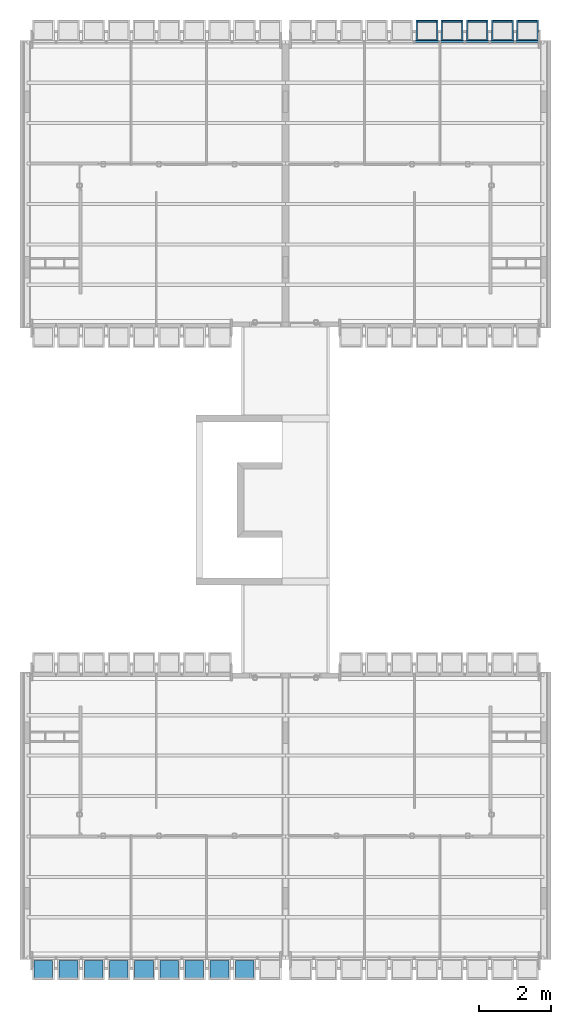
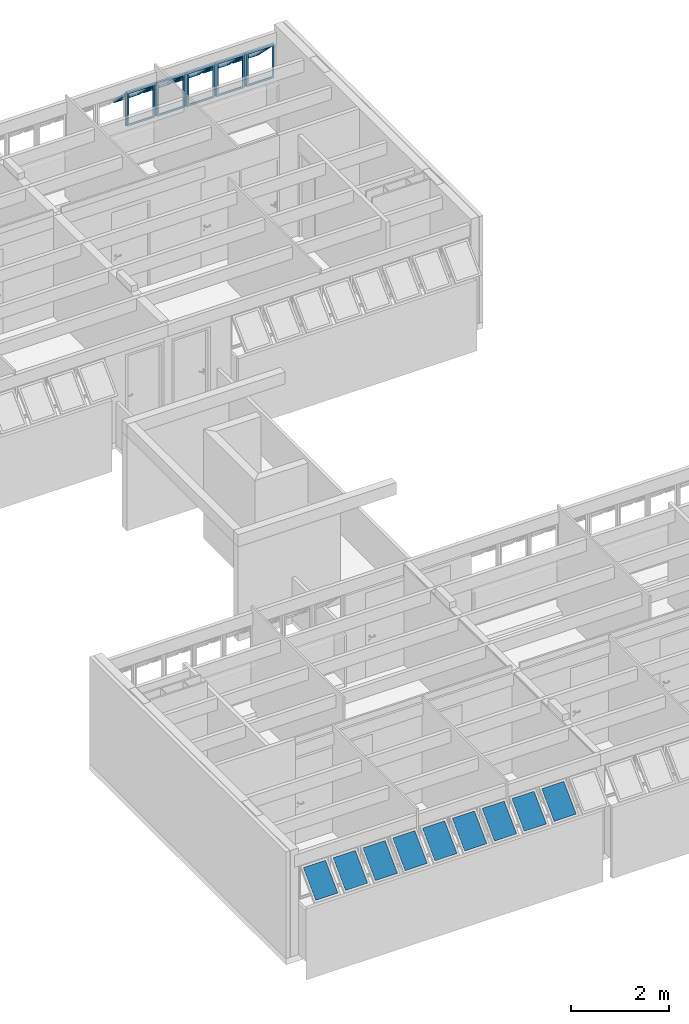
# One storey, part 35 of 37: 14 building element parts, 16 elements without a shape of their own.
"""IFC2X3 building model written with IfcOpenShell, lengths in millimetres."""

from ifc_helpers import new_model, entity, si_unit, converted_unit, derived_unit, money_unit, direction, frame, origin_with_axes, place, context, subcontext, project, spatial, faceted_brep, source, transform, mapped, material, type_object, element, aggregate, save


model = new_model("IFC2X3")

# Units and contexts
model_context = context("Model", 3, precision=0.01, world=origin_with_axes(), true_north=direction((0.0, 1.0)))
body_context = subcontext(model_context, "Body", "Model", "MODEL_VIEW")
ifc_project = project(units=[si_unit("LENGTHUNIT", "METRE", prefix="MILLI"), si_unit("AREAUNIT", "SQUARE_METRE"), si_unit("VOLUMEUNIT", "CUBIC_METRE"), converted_unit("PLANEANGLEUNIT", "DEGREE", entity("IfcPlaneAngleMeasure", 0.0174532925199), si_unit("PLANEANGLEUNIT", "RADIAN"), dimensions=[0, 0, 0, 0, 0, 0, 0]), money_unit("USD"), converted_unit("TIMEUNIT", "Year", entity("IfcTimeMeasure", 31556926.0), si_unit("TIMEUNIT", "SECOND"), dimensions=[0, 0, 1, 0, 0, 0, 0]), si_unit("MASSUNIT", "GRAM", prefix="KILO"), si_unit("THERMODYNAMICTEMPERATUREUNIT", "DEGREE_CELSIUS"), si_unit("LUMINOUSINTENSITYUNIT", "LUMEN"), si_unit("ENERGYUNIT", "JOULE", prefix="MEGA"), derived_unit("THERMALCONDUCTANCEUNIT", [(si_unit("POWERUNIT", "WATT"), 1), (si_unit("LENGTHUNIT", "METRE"), -1), (si_unit("THERMODYNAMICTEMPERATUREUNIT", "KELVIN"), -1)]), derived_unit("SPECIFICHEATCAPACITYUNIT", [(si_unit("ENERGYUNIT", "JOULE"), 1), (si_unit("MASSUNIT", "GRAM", prefix="KILO"), -1), (si_unit("THERMODYNAMICTEMPERATUREUNIT", "KELVIN"), -1)]), derived_unit("MASSDENSITYUNIT", [(si_unit("MASSUNIT", "GRAM", prefix="KILO"), 1), (si_unit("VOLUMEUNIT", "CUBIC_METRE"), -1)])], contexts=[model_context])

# Site, building, storey
site_placement = place(None, origin_with_axes())
site = spatial("IfcSite", under=ifc_project, at=site_placement, Name="Local", CompositionType="ELEMENT")
building_placement = place(site_placement, origin_with_axes())
building = spatial("IfcBuilding", under=site, at=building_placement, Name="Construção", CompositionType="ELEMENT")
storey_placement = place(building_placement, frame((0.0, 0.0, 5300.0), z_axis=(0.0, 0.0, 1.0), x_axis=(1.0, 0.0, 0.0)))
storey = spatial("IfcBuildingStorey", under=building, at=storey_placement, Name="Terceiro Pavimento", CompositionType="ELEMENT", Elevation=5300.0)

# Window, plate, building element part
window_style = type_object("IfcWindowStyle", Name="Tipo de Parede Cortina", ConstructionType="NOTDEFINED", OperationType="NOTDEFINED", ParameterTakesPrecedence=False, Sizeable=False)
window_1_placement = place(storey_placement, frame((8520.0, 25844.9790225, 1355.02054151), z_axis=(0.0, 0.0, 1.0), x_axis=(1.0, 0.0, 0.0)))
window_1 = element("IfcWindow", 1, at=window_1_placement, inside=storey, type_object=window_style, Name="APTO12-JANELA-001")
plate_type = type_object("IfcPlateType", Name="Painel Principal 690 x 845 x 20", PredefinedType="CURTAIN_PANEL")
plate_1_placement = place(window_1_placement, frame((3500.0, 0.0, 422.499945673), z_axis=(0.0, 0.0, 1.0), x_axis=(1.0, 0.0, 0.0)))
plate_1 = element("IfcPlate", 2, at=plate_1_placement, type_object=plate_type, Name="APTO12-Painel-Prin-013")
ifc_material_1 = material(Name="Alumínio")
shared_shape_1 = source(origin_with_axes(), body_context, "Body", "Brep", [
    faceted_brep([(25.0000036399, 0.0, -40.0), (674.999997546, 0.0, -40.0), (674.999997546, 0.0, -35.0), (25.0000036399, 0.0, -35.0), (70.0000036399, 45.0, -40.0), (629.999997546, 45.0, -40.0), (629.999997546, 45.0, -35.0), (70.0000036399, 45.0, -35.0)], [[[0, 1, 2, 3]], [[0, 4, 5, 1]], [[1, 5, 6, 2]], [[3, 2, 6, 7]], [[4, 0, 3, 7]], [[5, 4, 7, 6]]]),
    faceted_brep([(674.999997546, 0.0, -40.0), (674.999997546, 844.999891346, -40.0), (674.999997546, 844.999891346, -35.0), (674.999997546, 0.0, -35.0), (629.999997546, 45.0, -40.0), (629.999997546, 799.999891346, -40.0), (629.999997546, 799.999891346, -35.0), (629.999997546, 45.0, -35.0)], [[[0, 1, 2, 3]], [[0, 4, 5, 1]], [[1, 5, 6, 2]], [[3, 2, 6, 7]], [[4, 0, 3, 7]], [[5, 4, 7, 6]]]),
    faceted_brep([(25.0000036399, 844.999891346, -40.0), (70.0000036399, 799.999891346, -40.0), (70.0000036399, 799.999891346, -35.0), (25.0000036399, 844.999891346, -35.0), (674.999997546, 844.999891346, -40.0), (629.999997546, 799.999891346, -40.0), (629.999997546, 799.999891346, -35.0), (674.999997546, 844.999891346, -35.0)], [[[0, 1, 2, 3]], [[0, 4, 5, 1]], [[1, 5, 6, 2]], [[3, 2, 6, 7]], [[4, 0, 3, 7]], [[5, 4, 7, 6]]]),
    faceted_brep([(25.0000036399, 0.0, -40.0), (70.0000036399, 45.0, -40.0), (70.0000036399, 45.0, -35.0), (25.0000036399, 0.0, -35.0), (25.0000036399, 844.999891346, -40.0), (70.0000036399, 799.999891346, -40.0), (70.0000036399, 799.999891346, -35.0), (25.0000036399, 844.999891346, -35.0)], [[[0, 1, 2, 3]], [[0, 4, 5, 1]], [[1, 5, 6, 2]], [[3, 2, 6, 7]], [[4, 0, 3, 7]], [[5, 4, 7, 6]]]),
    faceted_brep([(25.0000036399, 0.0, -35.0), (674.999997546, 0.0, -35.0), (674.999997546, 0.0, 15.0), (25.0000036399, 0.0, 15.0), (45.0000036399, 20.0, -35.0), (654.999997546, 20.0, -35.0), (654.999997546, 20.0, 15.0), (45.0000036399, 20.0, 15.0)], [[[0, 1, 2, 3]], [[0, 4, 5, 1]], [[1, 5, 6, 2]], [[3, 2, 6, 7]], [[4, 0, 3, 7]], [[5, 4, 7, 6]]]),
    faceted_brep([(674.999997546, 0.0, -35.0), (674.999997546, 844.999891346, -35.0), (674.999997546, 844.999891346, 15.0), (674.999997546, 0.0, 15.0), (654.999997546, 20.0, -35.0), (654.999997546, 824.999891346, -35.0), (654.999997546, 824.999891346, 15.0), (654.999997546, 20.0, 15.0)], [[[0, 1, 2, 3]], [[0, 4, 5, 1]], [[1, 5, 6, 2]], [[3, 2, 6, 7]], [[4, 0, 3, 7]], [[5, 4, 7, 6]]]),
    faceted_brep([(25.0000036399, 844.999891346, -35.0), (45.0000036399, 824.999891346, -35.0), (45.0000036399, 824.999891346, 15.0), (25.0000036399, 844.999891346, 15.0), (674.999997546, 844.999891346, -35.0), (654.999997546, 824.999891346, -35.0), (654.999997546, 824.999891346, 15.0), (674.999997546, 844.999891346, 15.0)], [[[0, 1, 2, 3]], [[0, 4, 5, 1]], [[1, 5, 6, 2]], [[3, 2, 6, 7]], [[4, 0, 3, 7]], [[5, 4, 7, 6]]]),
    faceted_brep([(25.0000036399, 0.0, -35.0), (45.0000036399, 20.0, -35.0), (45.0000036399, 20.0, 15.0), (25.0000036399, 0.0, 15.0), (25.0000036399, 844.999891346, -35.0), (45.0000036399, 824.999891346, -35.0), (45.0000036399, 824.999891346, 15.0), (25.0000036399, 844.999891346, 15.0)], [[[0, 1, 2, 3]], [[0, 4, 5, 1]], [[1, 5, 6, 2]], [[3, 2, 6, 7]], [[4, 0, 3, 7]], [[5, 4, 7, 6]]]),
    faceted_brep([(694.999995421, 0.0, -10.0), (694.999995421, 844.999891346, -10.0), (694.999995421, 844.999891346, 10.0), (694.999995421, 0.0, 10.0), (674.999997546, 0.0, -10.0), (674.999997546, 844.999891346, -10.0), (674.999997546, 844.999891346, 10.0), (674.999997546, 0.0, 10.0)], [[[0, 1, 2, 3]], [[0, 4, 5, 1]], [[1, 5, 6, 2]], [[3, 2, 6, 7]], [[4, 0, 3, 7]], [[5, 4, 7, 6]]]),
    faceted_brep([(5.00000576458, 844.999891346, -10.0), (5.00000576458, 0.0, -10.0), (5.00000576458, 0.0, 10.0), (5.00000576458, 844.999891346, 10.0), (25.0000036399, 844.999891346, -10.0), (25.0000036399, 0.0, -10.0), (25.0000036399, 0.0, 10.0), (25.0000036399, 844.999891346, 10.0)], [[[0, 1, 2, 3]], [[0, 4, 5, 1]], [[1, 5, 6, 2]], [[3, 2, 6, 7]], [[4, 0, 3, 7]], [[5, 4, 7, 6]]]),
    faceted_brep([(90.0000036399, 252.243475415, 517.045737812), (90.0000036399, 757.824747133, 11.4644660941), (90.0000036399, 796.715620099, 50.3553390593), (90.0000036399, 291.13434838, 555.936610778), (45.0000036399, 220.423670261, 548.865542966), (45.0000036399, 789.644552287, -20.3553390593), (45.0000036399, 828.535425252, 18.5355339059), (45.0000036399, 259.314543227, 587.756415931)], [[[0, 1, 2, 3]], [[0, 4, 5, 1]], [[1, 5, 6, 2]], [[3, 2, 6, 7]], [[4, 0, 3, 7]], [[5, 4, 7, 6]]]),
    faceted_brep([(654.999997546, 220.423670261, 548.865542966), (654.999997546, 789.644552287, -20.3553390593), (654.999997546, 828.535425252, 18.5355339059), (654.999997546, 259.314543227, 587.756415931), (609.999997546, 252.243475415, 517.045737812), (609.999997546, 757.824747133, 11.4644660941), (609.999997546, 796.715620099, 50.3553390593), (609.999997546, 291.13434838, 555.936610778)], [[[0, 1, 2, 3]], [[0, 4, 5, 1]], [[1, 5, 6, 2]], [[3, 2, 6, 7]], [[4, 0, 3, 7]], [[5, 4, 7, 6]]]),
    faceted_brep([(654.999997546, 220.423670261, 548.865542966), (609.999997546, 252.243475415, 517.045737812), (609.999997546, 291.13434838, 555.936610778), (654.999997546, 259.314543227, 587.756415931), (45.0000036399, 220.423670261, 548.865542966), (90.0000036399, 252.243475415, 517.045737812), (90.0000036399, 291.13434838, 555.936610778), (45.0000036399, 259.314543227, 587.756415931)], [[[0, 1, 2, 3]], [[0, 4, 5, 1]], [[1, 5, 6, 2]], [[3, 2, 6, 7]], [[4, 0, 3, 7]], [[5, 4, 7, 6]]]),
    faceted_brep([(45.0000036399, 789.644552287, -20.3553390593), (90.0000036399, 757.824747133, 11.4644660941), (90.0000036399, 796.715620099, 50.3553390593), (45.0000036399, 828.535425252, 18.5355339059), (654.999997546, 789.644552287, -20.3553390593), (609.999997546, 757.824747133, 11.4644660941), (609.999997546, 796.715620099, 50.3553390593), (654.999997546, 828.535425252, 18.5355339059)], [[[0, 1, 2, 3]], [[0, 4, 5, 1]], [[1, 5, 6, 2]], [[3, 2, 6, 7]], [[4, 0, 3, 7]], [[5, 4, 7, 6]]]),
])
building_element_part_1_placement = place(plate_1_placement, origin_with_axes())
building_element_part_1 = element("IfcBuildingElementPart", 3, at=building_element_part_1_placement, material=ifc_material_1, Name="Alumínio", context=body_context, shape_type="MappedRepresentation", body=[
    mapped(shared_shape_1, transform((350.0, 0.0, -422.499945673), x_axis=(-1.0, 0.0, 0.0), y_axis=(0.0, 0.0, 1.0), z_axis=(0.0, 1.0, 0.0))),
])
aggregate(plate_1, [building_element_part_1])

# Window, plates, building element parts
window_2_placement = place(storey_placement, frame((6250.0, 315.020977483, 1355.02054151), z_axis=(0.0, 0.0, 1.0), x_axis=(1.0, 0.0, 0.0)))
window_2 = element("IfcWindow", 4, at=window_2_placement, inside=storey, type_object=window_style, Name="APTO9-JANELA-001")
plate_2_placement = place(window_2_placement, frame((0.0, 0.0, 422.499945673), z_axis=(0.0, 0.0, 1.0), x_axis=(-1.0, 0.0, 0.0)))
plate_2 = element("IfcPlate", 5, at=plate_2_placement, type_object=plate_type, Name="APTO9-Painel-Prin-030")
ifc_material_2 = material(Name="Vidro")
shared_shape_2 = source(origin_with_axes(), body_context, "Body", "Brep", [
    faceted_brep([(90.0000036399, 272.749572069, 537.551834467), (609.999997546, 272.749572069, 537.551834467), (609.999997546, 284.063280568, 548.865542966), (90.0000036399, 284.063280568, 548.865542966), (90.0000036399, 778.330843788, 31.9705627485), (609.999997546, 778.330843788, 31.9705627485), (609.999997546, 789.644552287, 43.2842712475), (90.0000036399, 789.644552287, 43.2842712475)], [[[0, 1, 2, 3]], [[0, 4, 5, 1]], [[1, 5, 6, 2]], [[3, 2, 6, 7]], [[4, 0, 3, 7]], [[5, 4, 7, 6]]]),
])
building_element_part_2_placement = place(plate_2_placement, origin_with_axes())
building_element_part_2 = element("IfcBuildingElementPart", 6, at=building_element_part_2_placement, material=ifc_material_2, Name="Vidro", context=body_context, shape_type="MappedRepresentation", body=[
    mapped(shared_shape_2, transform((350.0, 0.0, -422.499945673), x_axis=(-1.0, 0.0, 0.0), y_axis=(0.0, 0.0, 1.0), z_axis=(0.0, 1.0, 0.0))),
])
aggregate(plate_2, [building_element_part_2])
plate_3_placement = place(window_2_placement, frame((-700.0, 0.0, 422.499945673), z_axis=(0.0, 0.0, 1.0), x_axis=(-1.0, 0.0, 0.0)))
plate_3 = element("IfcPlate", 7, at=plate_3_placement, type_object=plate_type, Name="APTO9-Painel-Prin-020")
building_element_part_3_placement = place(plate_3_placement, origin_with_axes())
building_element_part_3 = element("IfcBuildingElementPart", 8, at=building_element_part_3_placement, material=ifc_material_2, Name="Vidro", context=body_context, shape_type="MappedRepresentation", body=[
    mapped(shared_shape_2, transform((350.0, 0.0, -422.499945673), x_axis=(-1.0, 0.0, 0.0), y_axis=(0.0, 0.0, 1.0), z_axis=(0.0, 1.0, 0.0))),
])
aggregate(plate_3, [building_element_part_3])
plate_4_placement = place(window_2_placement, frame((-1400.0, 0.0, 422.499945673), z_axis=(0.0, 0.0, 1.0), x_axis=(-1.0, 0.0, 0.0)))
plate_4 = element("IfcPlate", 9, at=plate_4_placement, type_object=plate_type, Name="APTO9-Painel-Prin-029")
building_element_part_4_placement = place(plate_4_placement, origin_with_axes())
building_element_part_4 = element("IfcBuildingElementPart", 10, at=building_element_part_4_placement, material=ifc_material_2, Name="Vidro", context=body_context, shape_type="MappedRepresentation", body=[
    mapped(shared_shape_2, transform((350.0, 0.0, -422.499945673), x_axis=(-1.0, 0.0, 0.0), y_axis=(0.0, 0.0, 1.0), z_axis=(0.0, 1.0, 0.0))),
])
aggregate(plate_4, [building_element_part_4])
plate_5_placement = place(window_2_placement, frame((-3500.0, 0.0, 422.499945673), z_axis=(0.0, 0.0, 1.0), x_axis=(-1.0, 0.0, 0.0)))
plate_5 = element("IfcPlate", 11, at=plate_5_placement, type_object=plate_type, Name="APTO9-Painel-Prin-013")
building_element_part_5_placement = place(plate_5_placement, origin_with_axes())
building_element_part_5 = element("IfcBuildingElementPart", 12, at=building_element_part_5_placement, material=ifc_material_2, Name="Vidro", context=body_context, shape_type="MappedRepresentation", body=[
    mapped(shared_shape_2, transform((350.0, 0.0, -422.499945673), x_axis=(-1.0, 0.0, 0.0), y_axis=(0.0, 0.0, 1.0), z_axis=(0.0, 1.0, 0.0))),
])
aggregate(plate_5, [building_element_part_5])

# Plate, building element part
plate_6_placement = place(window_1_placement, frame((5600.0, 0.0, 422.499945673), z_axis=(0.0, 0.0, 1.0), x_axis=(1.0, 0.0, 0.0)))
plate_6 = element("IfcPlate", 13, at=plate_6_placement, type_object=plate_type, Name="APTO12-Painel-Prin-013")
shared_shape_3 = source(origin_with_axes(), body_context, "Body", "Brep", [
    faceted_brep([(25.0000036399, 0.0, -40.0), (674.999997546, 0.0, -40.0), (674.999997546, 0.0, -35.0), (25.0000036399, 0.0, -35.0), (70.0000036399, 45.0, -40.0), (629.999997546, 45.0, -40.0), (629.999997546, 45.0, -35.0), (70.0000036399, 45.0, -35.0)], [[[0, 1, 2, 3]], [[0, 4, 5, 1]], [[1, 5, 6, 2]], [[3, 2, 6, 7]], [[4, 0, 3, 7]], [[5, 4, 7, 6]]]),
    faceted_brep([(674.999997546, 0.0, -40.0), (674.999997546, 844.999891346, -40.0), (674.999997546, 844.999891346, -35.0), (674.999997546, 0.0, -35.0), (629.999997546, 45.0, -40.0), (629.999997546, 799.999891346, -40.0), (629.999997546, 799.999891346, -35.0), (629.999997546, 45.0, -35.0)], [[[0, 1, 2, 3]], [[0, 4, 5, 1]], [[1, 5, 6, 2]], [[3, 2, 6, 7]], [[4, 0, 3, 7]], [[5, 4, 7, 6]]]),
    faceted_brep([(25.0000036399, 844.999891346, -40.0), (70.0000036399, 799.999891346, -40.0), (70.0000036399, 799.999891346, -35.0), (25.0000036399, 844.999891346, -35.0), (674.999997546, 844.999891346, -40.0), (629.999997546, 799.999891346, -40.0), (629.999997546, 799.999891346, -35.0), (674.999997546, 844.999891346, -35.0)], [[[0, 1, 2, 3]], [[0, 4, 5, 1]], [[1, 5, 6, 2]], [[3, 2, 6, 7]], [[4, 0, 3, 7]], [[5, 4, 7, 6]]]),
    faceted_brep([(25.0000036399, 0.0, -40.0), (70.0000036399, 45.0, -40.0), (70.0000036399, 45.0, -35.0), (25.0000036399, 0.0, -35.0), (25.0000036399, 844.999891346, -40.0), (70.0000036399, 799.999891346, -40.0), (70.0000036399, 799.999891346, -35.0), (25.0000036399, 844.999891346, -35.0)], [[[0, 1, 2, 3]], [[0, 4, 5, 1]], [[1, 5, 6, 2]], [[3, 2, 6, 7]], [[4, 0, 3, 7]], [[5, 4, 7, 6]]]),
    faceted_brep([(25.0000036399, 0.0, -35.0), (674.999997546, 0.0, -35.0), (674.999997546, 0.0, 15.0), (25.0000036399, 0.0, 15.0), (45.0000036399, 20.0, -35.0), (654.999997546, 20.0, -35.0), (654.999997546, 20.0, 15.0), (45.0000036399, 20.0, 15.0)], [[[0, 1, 2, 3]], [[0, 4, 5, 1]], [[1, 5, 6, 2]], [[3, 2, 6, 7]], [[4, 0, 3, 7]], [[5, 4, 7, 6]]]),
    faceted_brep([(674.999997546, 0.0, -35.0), (674.999997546, 844.999891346, -35.0), (674.999997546, 844.999891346, 15.0), (674.999997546, 0.0, 15.0), (654.999997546, 20.0, -35.0), (654.999997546, 824.999891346, -35.0), (654.999997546, 824.999891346, 15.0), (654.999997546, 20.0, 15.0)], [[[0, 1, 2, 3]], [[0, 4, 5, 1]], [[1, 5, 6, 2]], [[3, 2, 6, 7]], [[4, 0, 3, 7]], [[5, 4, 7, 6]]]),
    faceted_brep([(25.0000036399, 844.999891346, -35.0), (45.0000036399, 824.999891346, -35.0), (45.0000036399, 824.999891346, 15.0), (25.0000036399, 844.999891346, 15.0), (674.999997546, 844.999891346, -35.0), (654.999997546, 824.999891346, -35.0), (654.999997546, 824.999891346, 15.0), (674.999997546, 844.999891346, 15.0)], [[[0, 1, 2, 3]], [[0, 4, 5, 1]], [[1, 5, 6, 2]], [[3, 2, 6, 7]], [[4, 0, 3, 7]], [[5, 4, 7, 6]]]),
    faceted_brep([(25.0000036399, 0.0, -35.0), (45.0000036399, 20.0, -35.0), (45.0000036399, 20.0, 15.0), (25.0000036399, 0.0, 15.0), (25.0000036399, 844.999891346, -35.0), (45.0000036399, 824.999891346, -35.0), (45.0000036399, 824.999891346, 15.0), (25.0000036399, 844.999891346, 15.0)], [[[0, 1, 2, 3]], [[0, 4, 5, 1]], [[1, 5, 6, 2]], [[3, 2, 6, 7]], [[4, 0, 3, 7]], [[5, 4, 7, 6]]]),
    faceted_brep([(694.999995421, 0.0, -10.0), (694.999995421, 844.999891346, -10.0), (694.999995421, 844.999891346, 10.0), (694.999995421, 0.0, 10.0), (674.999997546, 0.0, -10.0), (674.999997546, 844.999891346, -10.0), (674.999997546, 844.999891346, 10.0), (674.999997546, 0.0, 10.0)], [[[0, 1, 2, 3]], [[0, 4, 5, 1]], [[1, 5, 6, 2]], [[3, 2, 6, 7]], [[4, 0, 3, 7]], [[5, 4, 7, 6]]]),
    faceted_brep([(5.00000576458, 844.999891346, -10.0), (5.00000576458, 0.0, -10.0), (5.00000576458, 0.0, 10.0), (5.00000576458, 844.999891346, 10.0), (25.0000036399, 844.999891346, -10.0), (25.0000036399, 0.0, -10.0), (25.0000036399, 0.0, 10.0), (25.0000036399, 844.999891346, 10.0)], [[[0, 1, 2, 3]], [[0, 4, 5, 1]], [[1, 5, 6, 2]], [[3, 2, 6, 7]], [[4, 0, 3, 7]], [[5, 4, 7, 6]]]),
    faceted_brep([(90.0000036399, 252.243475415, 517.045737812), (90.0000036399, 757.824747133, 11.4644660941), (90.0000036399, 796.715620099, 50.3553390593), (90.0000036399, 291.13434838, 555.936610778), (45.0000036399, 220.423670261, 548.865542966), (45.0000036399, 789.644552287, -20.3553390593), (45.0000036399, 828.535425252, 18.5355339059), (45.0000036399, 259.314543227, 587.756415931)], [[[0, 1, 2, 3]], [[0, 4, 5, 1]], [[1, 5, 6, 2]], [[3, 2, 6, 7]], [[4, 0, 3, 7]], [[5, 4, 7, 6]]]),
    faceted_brep([(654.999997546, 220.423670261, 548.865542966), (654.999997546, 789.644552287, -20.3553390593), (654.999997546, 828.535425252, 18.5355339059), (654.999997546, 259.314543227, 587.756415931), (609.999997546, 252.243475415, 517.045737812), (609.999997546, 757.824747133, 11.4644660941), (609.999997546, 796.715620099, 50.3553390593), (609.999997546, 291.13434838, 555.936610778)], [[[0, 1, 2, 3]], [[0, 4, 5, 1]], [[1, 5, 6, 2]], [[3, 2, 6, 7]], [[4, 0, 3, 7]], [[5, 4, 7, 6]]]),
    faceted_brep([(654.999997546, 220.423670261, 548.865542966), (609.999997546, 252.243475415, 517.045737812), (609.999997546, 291.13434838, 555.936610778), (654.999997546, 259.314543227, 587.756415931), (45.0000036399, 220.423670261, 548.865542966), (90.0000036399, 252.243475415, 517.045737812), (90.0000036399, 291.13434838, 555.936610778), (45.0000036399, 259.314543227, 587.756415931)], [[[0, 1, 2, 3]], [[0, 4, 5, 1]], [[1, 5, 6, 2]], [[3, 2, 6, 7]], [[4, 0, 3, 7]], [[5, 4, 7, 6]]]),
    faceted_brep([(45.0000036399, 789.644552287, -20.3553390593), (90.0000036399, 757.824747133, 11.4644660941), (90.0000036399, 796.715620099, 50.3553390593), (45.0000036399, 828.535425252, 18.5355339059), (654.999997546, 789.644552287, -20.3553390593), (609.999997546, 757.824747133, 11.4644660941), (609.999997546, 796.715620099, 50.3553390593), (654.999997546, 828.535425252, 18.5355339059)], [[[0, 1, 2, 3]], [[0, 4, 5, 1]], [[1, 5, 6, 2]], [[3, 2, 6, 7]], [[4, 0, 3, 7]], [[5, 4, 7, 6]]]),
])
building_element_part_6_placement = place(plate_6_placement, origin_with_axes())
building_element_part_6 = element("IfcBuildingElementPart", 14, at=building_element_part_6_placement, material=ifc_material_1, Name="Alumínio", context=body_context, shape_type="MappedRepresentation", body=[
    mapped(shared_shape_3, transform((350.0, 0.0, -422.499945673), x_axis=(-1.0, 0.0, 0.0), y_axis=(0.0, 0.0, 1.0), z_axis=(0.0, 1.0, 0.0))),
])
aggregate(plate_6, [building_element_part_6])

plate_7_placement = place(window_1_placement, frame((4900.0, 0.0, 422.499945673), z_axis=(0.0, 0.0, 1.0), x_axis=(1.0, 0.0, 0.0)))
plate_7 = element("IfcPlate", 15, at=plate_7_placement, type_object=plate_type, Name="APTO12-Painel-Prin-013")
building_element_part_7_placement = place(plate_7_placement, origin_with_axes())
building_element_part_7 = element("IfcBuildingElementPart", 16, at=building_element_part_7_placement, material=ifc_material_1, Name="Alumínio", context=body_context, shape_type="MappedRepresentation", body=[
    mapped(shared_shape_3, transform((350.0, 0.0, -422.499945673), x_axis=(-1.0, 0.0, 0.0), y_axis=(0.0, 0.0, 1.0), z_axis=(0.0, 1.0, 0.0))),
])
aggregate(plate_7, [building_element_part_7])

plate_8_placement = place(window_2_placement, frame((-5600.0, 0.0, 422.499945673), z_axis=(0.0, 0.0, 1.0), x_axis=(-1.0, 0.0, 0.0)))
plate_8 = element("IfcPlate", 17, at=plate_8_placement, type_object=plate_type, Name="APTO9-Painel-Prin-013")
shared_shape_4 = source(origin_with_axes(), body_context, "Body", "Brep", [
    faceted_brep([(90.0000036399, 272.749572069, 537.551834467), (609.999997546, 272.749572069, 537.551834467), (609.999997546, 284.063280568, 548.865542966), (90.0000036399, 284.063280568, 548.865542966), (90.0000036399, 778.330843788, 31.9705627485), (609.999997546, 778.330843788, 31.9705627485), (609.999997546, 789.644552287, 43.2842712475), (90.0000036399, 789.644552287, 43.2842712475)], [[[0, 1, 2, 3]], [[0, 4, 5, 1]], [[1, 5, 6, 2]], [[3, 2, 6, 7]], [[4, 0, 3, 7]], [[5, 4, 7, 6]]]),
])
building_element_part_8_placement = place(plate_8_placement, origin_with_axes())
building_element_part_8 = element("IfcBuildingElementPart", 18, at=building_element_part_8_placement, material=ifc_material_2, Name="Vidro", context=body_context, shape_type="MappedRepresentation", body=[
    mapped(shared_shape_4, transform((350.0, 0.0, -422.499945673), x_axis=(-1.0, 0.0, 0.0), y_axis=(0.0, 0.0, 1.0), z_axis=(0.0, 1.0, 0.0))),
])
aggregate(plate_8, [building_element_part_8])

plate_9_placement = place(window_2_placement, frame((-4900.0, 0.0, 422.499945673), z_axis=(0.0, 0.0, 1.0), x_axis=(-1.0, 0.0, 0.0)))
plate_9 = element("IfcPlate", 19, at=plate_9_placement, type_object=plate_type, Name="APTO9-Painel-Prin-013")
building_element_part_9_placement = place(plate_9_placement, origin_with_axes())
building_element_part_9 = element("IfcBuildingElementPart", 20, at=building_element_part_9_placement, material=ifc_material_2, Name="Vidro", context=body_context, shape_type="MappedRepresentation", body=[
    mapped(shared_shape_4, transform((350.0, 0.0, -422.499945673), x_axis=(-1.0, 0.0, 0.0), y_axis=(0.0, 0.0, 1.0), z_axis=(0.0, 1.0, 0.0))),
])
aggregate(plate_9, [building_element_part_9])

plate_10_placement = place(window_2_placement, frame((-2100.0, 0.0, 422.499945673), z_axis=(0.0, 0.0, 1.0), x_axis=(-1.0, 0.0, 0.0)))
plate_10 = element("IfcPlate", 21, at=plate_10_placement, type_object=plate_type, Name="APTO9-Painel-Prin-025")
building_element_part_10_placement = place(plate_10_placement, origin_with_axes())
building_element_part_10 = element("IfcBuildingElementPart", 22, at=building_element_part_10_placement, material=ifc_material_2, Name="Vidro", context=body_context, shape_type="MappedRepresentation", body=[
    mapped(shared_shape_4, transform((350.0, 0.0, -422.499945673), x_axis=(-1.0, 0.0, 0.0), y_axis=(0.0, 0.0, 1.0), z_axis=(0.0, 1.0, 0.0))),
])
aggregate(plate_10, [building_element_part_10])

plate_11_placement = place(window_1_placement, frame((2800.0, 0.0, 422.499945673), z_axis=(0.0, 0.0, 1.0), x_axis=(1.0, 0.0, 0.0)))
plate_11 = element("IfcPlate", 23, at=plate_11_placement, type_object=plate_type, Name="APTO12-Painel-Prin-013")
shared_shape_5 = source(origin_with_axes(), body_context, "Body", "Brep", [
    faceted_brep([(25.0000036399, 0.0, -40.0), (674.999997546, 0.0, -40.0), (674.999997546, 0.0, -35.0), (25.0000036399, 0.0, -35.0), (70.0000036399, 45.0, -40.0), (629.999997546, 45.0, -40.0), (629.999997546, 45.0, -35.0), (70.0000036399, 45.0, -35.0)], [[[0, 1, 2, 3]], [[0, 4, 5, 1]], [[1, 5, 6, 2]], [[3, 2, 6, 7]], [[4, 0, 3, 7]], [[5, 4, 7, 6]]]),
    faceted_brep([(674.999997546, 0.0, -40.0), (674.999997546, 844.999891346, -40.0), (674.999997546, 844.999891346, -35.0), (674.999997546, 0.0, -35.0), (629.999997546, 45.0, -40.0), (629.999997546, 799.999891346, -40.0), (629.999997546, 799.999891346, -35.0), (629.999997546, 45.0, -35.0)], [[[0, 1, 2, 3]], [[0, 4, 5, 1]], [[1, 5, 6, 2]], [[3, 2, 6, 7]], [[4, 0, 3, 7]], [[5, 4, 7, 6]]]),
    faceted_brep([(25.0000036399, 844.999891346, -40.0), (70.0000036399, 799.999891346, -40.0), (70.0000036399, 799.999891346, -35.0), (25.0000036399, 844.999891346, -35.0), (674.999997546, 844.999891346, -40.0), (629.999997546, 799.999891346, -40.0), (629.999997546, 799.999891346, -35.0), (674.999997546, 844.999891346, -35.0)], [[[0, 1, 2, 3]], [[0, 4, 5, 1]], [[1, 5, 6, 2]], [[3, 2, 6, 7]], [[4, 0, 3, 7]], [[5, 4, 7, 6]]]),
    faceted_brep([(25.0000036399, 0.0, -40.0), (70.0000036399, 45.0, -40.0), (70.0000036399, 45.0, -35.0), (25.0000036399, 0.0, -35.0), (25.0000036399, 844.999891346, -40.0), (70.0000036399, 799.999891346, -40.0), (70.0000036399, 799.999891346, -35.0), (25.0000036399, 844.999891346, -35.0)], [[[0, 1, 2, 3]], [[0, 4, 5, 1]], [[1, 5, 6, 2]], [[3, 2, 6, 7]], [[4, 0, 3, 7]], [[5, 4, 7, 6]]]),
    faceted_brep([(25.0000036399, 0.0, -35.0), (674.999997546, 0.0, -35.0), (674.999997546, 0.0, 15.0), (25.0000036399, 0.0, 15.0), (45.0000036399, 20.0, -35.0), (654.999997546, 20.0, -35.0), (654.999997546, 20.0, 15.0), (45.0000036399, 20.0, 15.0)], [[[0, 1, 2, 3]], [[0, 4, 5, 1]], [[1, 5, 6, 2]], [[3, 2, 6, 7]], [[4, 0, 3, 7]], [[5, 4, 7, 6]]]),
    faceted_brep([(674.999997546, 0.0, -35.0), (674.999997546, 844.999891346, -35.0), (674.999997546, 844.999891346, 15.0), (674.999997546, 0.0, 15.0), (654.999997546, 20.0, -35.0), (654.999997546, 824.999891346, -35.0), (654.999997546, 824.999891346, 15.0), (654.999997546, 20.0, 15.0)], [[[0, 1, 2, 3]], [[0, 4, 5, 1]], [[1, 5, 6, 2]], [[3, 2, 6, 7]], [[4, 0, 3, 7]], [[5, 4, 7, 6]]]),
    faceted_brep([(25.0000036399, 844.999891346, -35.0), (45.0000036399, 824.999891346, -35.0), (45.0000036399, 824.999891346, 15.0), (25.0000036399, 844.999891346, 15.0), (674.999997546, 844.999891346, -35.0), (654.999997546, 824.999891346, -35.0), (654.999997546, 824.999891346, 15.0), (674.999997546, 844.999891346, 15.0)], [[[0, 1, 2, 3]], [[0, 4, 5, 1]], [[1, 5, 6, 2]], [[3, 2, 6, 7]], [[4, 0, 3, 7]], [[5, 4, 7, 6]]]),
    faceted_brep([(25.0000036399, 0.0, -35.0), (45.0000036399, 20.0, -35.0), (45.0000036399, 20.0, 15.0), (25.0000036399, 0.0, 15.0), (25.0000036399, 844.999891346, -35.0), (45.0000036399, 824.999891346, -35.0), (45.0000036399, 824.999891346, 15.0), (25.0000036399, 844.999891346, 15.0)], [[[0, 1, 2, 3]], [[0, 4, 5, 1]], [[1, 5, 6, 2]], [[3, 2, 6, 7]], [[4, 0, 3, 7]], [[5, 4, 7, 6]]]),
    faceted_brep([(694.999995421, 0.0, -10.0), (694.999995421, 844.999891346, -10.0), (694.999995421, 844.999891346, 10.0), (694.999995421, 0.0, 10.0), (674.999997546, 0.0, -10.0), (674.999997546, 844.999891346, -10.0), (674.999997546, 844.999891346, 10.0), (674.999997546, 0.0, 10.0)], [[[0, 1, 2, 3]], [[0, 4, 5, 1]], [[1, 5, 6, 2]], [[3, 2, 6, 7]], [[4, 0, 3, 7]], [[5, 4, 7, 6]]]),
    faceted_brep([(5.00000576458, 844.999891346, -10.0), (5.00000576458, 0.0, -10.0), (5.00000576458, 0.0, 10.0), (5.00000576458, 844.999891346, 10.0), (25.0000036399, 844.999891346, -10.0), (25.0000036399, 0.0, -10.0), (25.0000036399, 0.0, 10.0), (25.0000036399, 844.999891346, 10.0)], [[[0, 1, 2, 3]], [[0, 4, 5, 1]], [[1, 5, 6, 2]], [[3, 2, 6, 7]], [[4, 0, 3, 7]], [[5, 4, 7, 6]]]),
    faceted_brep([(90.0000036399, 252.243475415, 517.045737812), (90.0000036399, 757.824747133, 11.4644660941), (90.0000036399, 796.715620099, 50.3553390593), (90.0000036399, 291.13434838, 555.936610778), (45.0000036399, 220.423670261, 548.865542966), (45.0000036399, 789.644552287, -20.3553390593), (45.0000036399, 828.535425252, 18.5355339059), (45.0000036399, 259.314543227, 587.756415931)], [[[0, 1, 2, 3]], [[0, 4, 5, 1]], [[1, 5, 6, 2]], [[3, 2, 6, 7]], [[4, 0, 3, 7]], [[5, 4, 7, 6]]]),
    faceted_brep([(654.999997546, 220.423670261, 548.865542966), (654.999997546, 789.644552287, -20.3553390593), (654.999997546, 828.535425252, 18.5355339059), (654.999997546, 259.314543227, 587.756415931), (609.999997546, 252.243475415, 517.045737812), (609.999997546, 757.824747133, 11.4644660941), (609.999997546, 796.715620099, 50.3553390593), (609.999997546, 291.13434838, 555.936610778)], [[[0, 1, 2, 3]], [[0, 4, 5, 1]], [[1, 5, 6, 2]], [[3, 2, 6, 7]], [[4, 0, 3, 7]], [[5, 4, 7, 6]]]),
    faceted_brep([(654.999997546, 220.423670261, 548.865542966), (609.999997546, 252.243475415, 517.045737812), (609.999997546, 291.13434838, 555.936610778), (654.999997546, 259.314543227, 587.756415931), (45.0000036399, 220.423670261, 548.865542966), (90.0000036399, 252.243475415, 517.045737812), (90.0000036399, 291.13434838, 555.936610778), (45.0000036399, 259.314543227, 587.756415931)], [[[0, 1, 2, 3]], [[0, 4, 5, 1]], [[1, 5, 6, 2]], [[3, 2, 6, 7]], [[4, 0, 3, 7]], [[5, 4, 7, 6]]]),
    faceted_brep([(45.0000036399, 789.644552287, -20.3553390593), (90.0000036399, 757.824747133, 11.4644660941), (90.0000036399, 796.715620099, 50.3553390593), (45.0000036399, 828.535425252, 18.5355339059), (654.999997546, 789.644552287, -20.3553390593), (609.999997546, 757.824747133, 11.4644660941), (609.999997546, 796.715620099, 50.3553390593), (654.999997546, 828.535425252, 18.5355339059)], [[[0, 1, 2, 3]], [[0, 4, 5, 1]], [[1, 5, 6, 2]], [[3, 2, 6, 7]], [[4, 0, 3, 7]], [[5, 4, 7, 6]]]),
])
building_element_part_11_placement = place(plate_11_placement, origin_with_axes())
building_element_part_11 = element("IfcBuildingElementPart", 24, at=building_element_part_11_placement, material=ifc_material_1, Name="Alumínio", context=body_context, shape_type="MappedRepresentation", body=[
    mapped(shared_shape_5, transform((350.0, 0.0, -422.499945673), x_axis=(-1.0, 0.0, 0.0), y_axis=(0.0, 0.0, 1.0), z_axis=(0.0, 1.0, 0.0))),
])
aggregate(plate_11, [building_element_part_11])

# Plate
plate_12_placement = place(window_1_placement, frame((4200.0, 0.0, 422.499945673), z_axis=(0.0, 0.0, 1.0), x_axis=(1.0, 0.0, 0.0)))
plate_12 = element("IfcPlate", 25, at=plate_12_placement, type_object=plate_type, Name="APTO12-Painel-Prin-013")

aggregate(window_1, [plate_6, plate_7, plate_11, plate_12, plate_1])

# Building element part
building_element_part_12_placement = place(plate_12_placement, origin_with_axes())
building_element_part_12 = element("IfcBuildingElementPart", 26, at=building_element_part_12_placement, material=ifc_material_1, Name="Alumínio", context=body_context, shape_type="MappedRepresentation", body=[
    mapped(shared_shape_5, transform((350.0, 0.0, -422.499945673), x_axis=(-1.0, 0.0, 0.0), y_axis=(0.0, 0.0, 1.0), z_axis=(0.0, 1.0, 0.0))),
])

aggregate(plate_12, [building_element_part_12])

# Plate, building element part
plate_13_placement = place(window_2_placement, frame((-2800.0, 0.0, 422.499945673), z_axis=(0.0, 0.0, 1.0), x_axis=(-1.0, 0.0, 0.0)))
plate_13 = element("IfcPlate", 27, at=plate_13_placement, type_object=plate_type, Name="APTO9-Painel-Prin-013")
shared_shape_6 = source(origin_with_axes(), body_context, "Body", "Brep", [
    faceted_brep([(90.0000036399, 272.749572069, 537.551834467), (609.999997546, 272.749572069, 537.551834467), (609.999997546, 284.063280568, 548.865542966), (90.0000036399, 284.063280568, 548.865542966), (90.0000036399, 778.330843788, 31.9705627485), (609.999997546, 778.330843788, 31.9705627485), (609.999997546, 789.644552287, 43.2842712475), (90.0000036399, 789.644552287, 43.2842712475)], [[[0, 1, 2, 3]], [[0, 4, 5, 1]], [[1, 5, 6, 2]], [[3, 2, 6, 7]], [[4, 0, 3, 7]], [[5, 4, 7, 6]]]),
])
building_element_part_13_placement = place(plate_13_placement, origin_with_axes())
building_element_part_13 = element("IfcBuildingElementPart", 28, at=building_element_part_13_placement, material=ifc_material_2, Name="Vidro", context=body_context, shape_type="MappedRepresentation", body=[
    mapped(shared_shape_6, transform((350.0, 0.0, -422.499945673), x_axis=(-1.0, 0.0, 0.0), y_axis=(0.0, 0.0, 1.0), z_axis=(0.0, 1.0, 0.0))),
])
aggregate(plate_13, [building_element_part_13])

# Plate
plate_14_placement = place(window_2_placement, frame((-4200.0, 0.0, 422.499945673), z_axis=(0.0, 0.0, 1.0), x_axis=(-1.0, 0.0, 0.0)))
plate_14 = element("IfcPlate", 29, at=plate_14_placement, type_object=plate_type, Name="APTO9-Painel-Prin-013")

aggregate(window_2, [plate_2, plate_8, plate_9, plate_13, plate_10, plate_3, plate_14, plate_4, plate_5])

# Building element part
building_element_part_14_placement = place(plate_14_placement, origin_with_axes())
building_element_part_14 = element("IfcBuildingElementPart", 30, at=building_element_part_14_placement, material=ifc_material_2, Name="Vidro", context=body_context, shape_type="MappedRepresentation", body=[
    mapped(shared_shape_6, transform((350.0, 0.0, -422.499945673), x_axis=(-1.0, 0.0, 0.0), y_axis=(0.0, 0.0, 1.0), z_axis=(0.0, 1.0, 0.0))),
])

aggregate(plate_14, [building_element_part_14])

save(model, "model.ifc")
